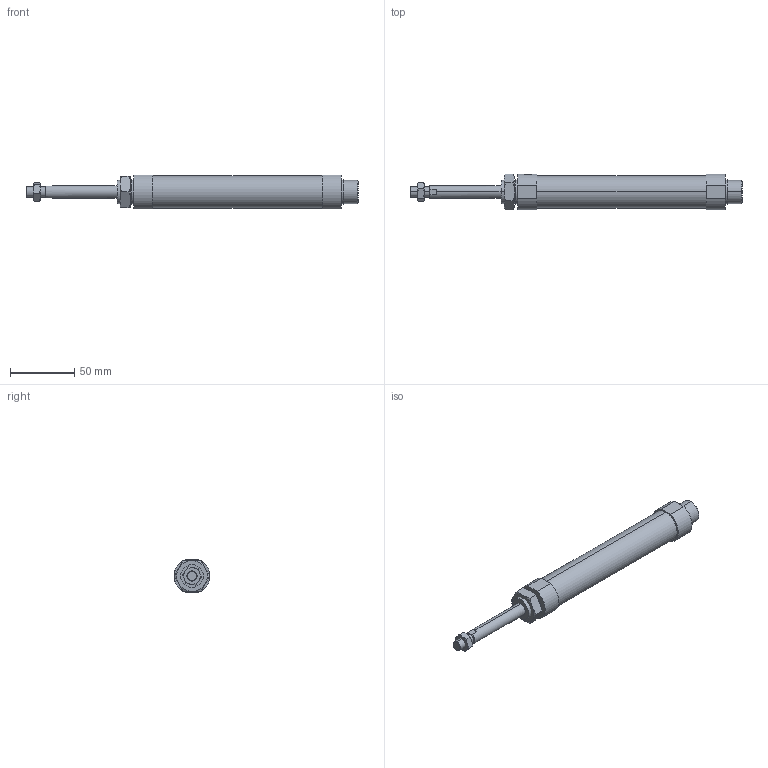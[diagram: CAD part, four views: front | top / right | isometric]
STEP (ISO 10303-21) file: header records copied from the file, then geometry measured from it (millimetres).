
FILE_DESCRIPTION (( 'STEP AP203' ), '1' );
FILE_NAME ('J#0-20-50-N.STEP', '2016-03-08T06:30:18', ( '' ), ( '' ), 'SwSTEP 2.0', 'SolidWorks 2014', '' );
FILE_SCHEMA (( 'CONFIG_CONTROL_DESIGN' ));
Length unit declared in the file: millimetre
Products named in the file (4): J#0-20-50-N; J#0-20-50
Assembly tree (3 placements, depth 2):
  J#0-20-50-N
    J#0-20-50
    (unnamed)
    (unnamed)
Bounding box: 259 x 28 x 26 mm (x, y, z)
Volume: 96714.5 mm3; surface area: 20507.1 mm2
Topology: 3 solids, 3 shells, 89 faces, 192 edges, 118 vertices
Faces by surface type: plane 35, cylinder 24, torus 24, cone 6
Entity records: 3110 total; most frequent: CARTESIAN_POINT 795, DIRECTION 408, ORIENTED_EDGE 384, EDGE_CURVE 192, AXIS2_PLACEMENT_3D 175, VERTEX_POINT 118, EDGE_LOOP 102, ADVANCED_FACE 89
